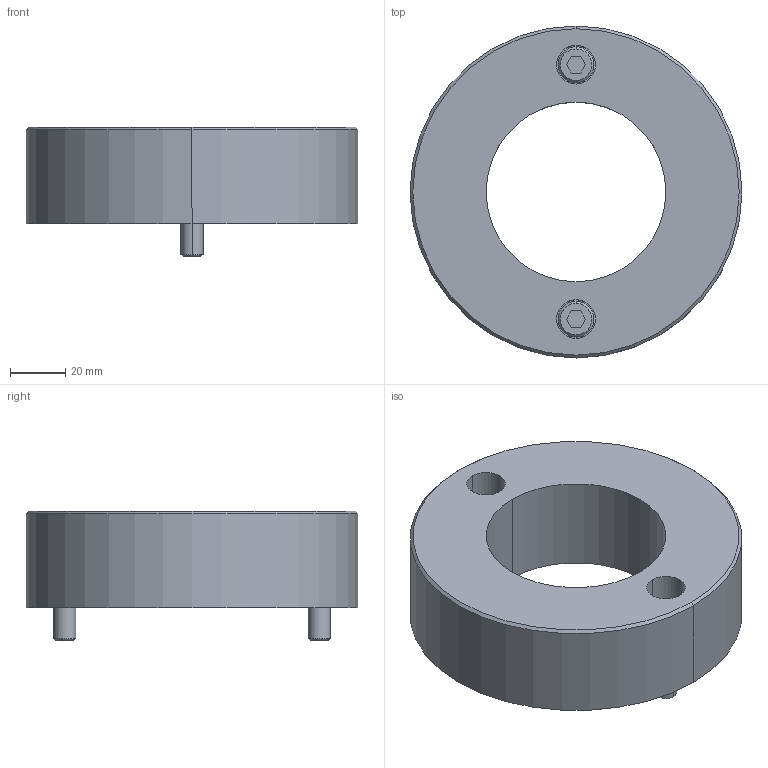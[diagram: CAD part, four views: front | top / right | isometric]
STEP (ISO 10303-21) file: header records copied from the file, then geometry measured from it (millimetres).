
FILE_DESCRIPTION((''),'2;1');
FILE_NAME('','2010-08-30T17:18:29+09:00',('misumi'),(''),'M/STEP i/f 1R2-14','CADmeister v5.1','');
FILE_SCHEMA(('AUTOMOTIVE_DESIGN'));
Length unit declared in the file: millimetre
Products named in the file (1): GEB60-35-N
Bounding box: 120 x 120 x 47 mm (x, y, z)
Volume: 276842.2 mm3; surface area: 41157 mm2
Topology: 3 solids, 3 shells, 54 faces, 116 edges, 74 vertices
Faces by surface type: plane 24, cylinder 20, cone 10
Entity records: 1592 total; most frequent: DIRECTION 276, CARTESIAN_POINT 245, ORIENTED_EDGE 232, EDGE_CURVE 116, AXIS2_PLACEMENT_3D 105, VERTEX_POINT 74, LINE 66, VECTOR 66
